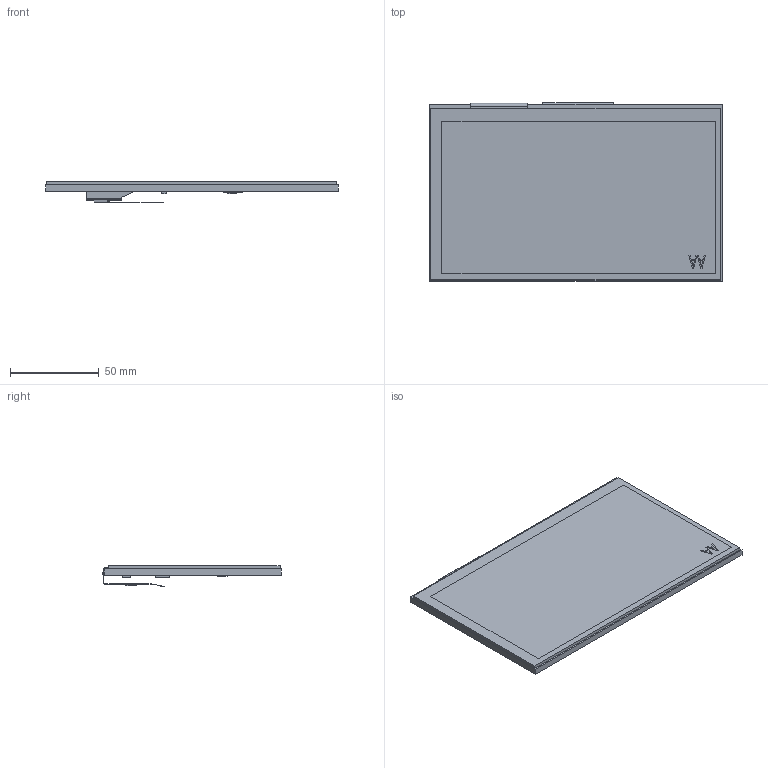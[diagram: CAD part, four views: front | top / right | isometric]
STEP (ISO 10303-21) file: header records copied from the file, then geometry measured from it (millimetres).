
FILE_DESCRIPTION(/* description */ (''),/* implementation_level */ '2;1');
FILE_NAME(/* name */ '',/* time_stamp */ '2022-06-06T18:34:14+08:00',/* author */ (''),/* organization */ (''),/* preprocessor_version */ 'ST-DEVELOPER v11',/* originating_system */ 'SIEMENS PLM Software NX 7.5',/* authorisation */ '');
FILE_SCHEMA (('AP203_CONFIGURATION_CONTROLLED_3D_DESIGN_OF_MECHANICAL_PARTS_AND_ASSEMBLIES_MIM_LF'));
Length unit declared in the file: millimetre
Products named in the file (1): SDWb070T64C
Bounding box: 164.9 x 100.85 x 11.61 mm (x, y, z)
Volume: 85768.6 mm3; surface area: 105946.7 mm2
Topology: 28 solids, 28 shells, 279 faces, 772 edges, 665 vertices
Faces by surface type: plane 257, cylinder 22
Entity records: 10700 total; most frequent: CARTESIAN_POINT 1539, DIRECTION 1377, ORIENTED_EDGE 1318, LINE 725, VECTOR 725, EDGE_CURVE 659, VERTEX_POINT 438, PRESENTATION_STYLE_ASSIGNMENT 354
